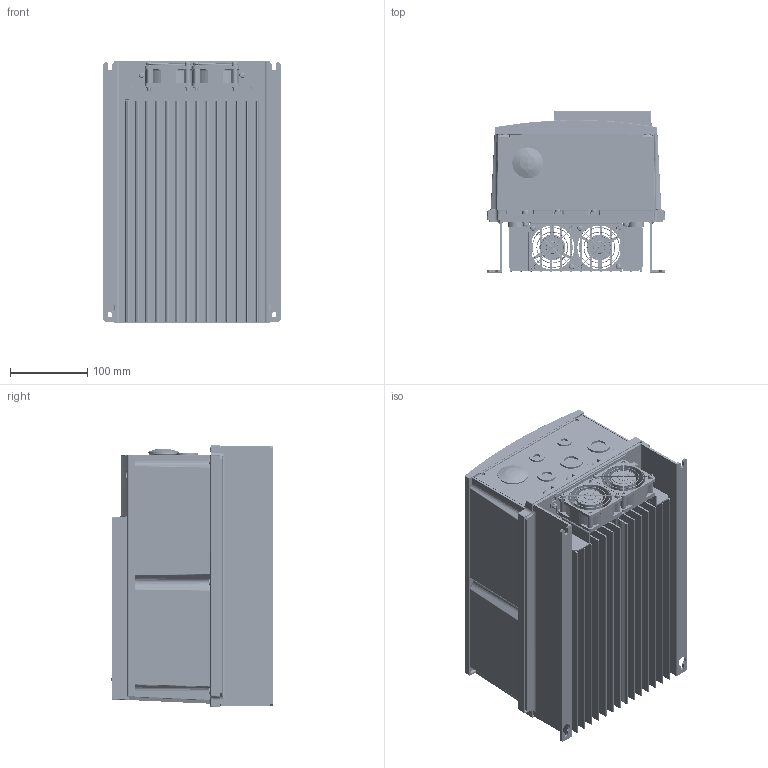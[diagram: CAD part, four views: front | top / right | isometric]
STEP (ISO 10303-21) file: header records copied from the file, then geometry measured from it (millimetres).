
FILE_DESCRIPTION(('STEP AP242'),'1');
FILE_NAME('atv212wu40n4c.stp','2021-03-23T14:28:31',('TraceParts'),('TraceParts S.A.'),'Spatial InterOp 3D',' ',' ');
FILE_SCHEMA(('AP242_MANAGED_MODEL_BASED_3D_ENGINEERING_MIM_LF {1 0 10303 442 1 1 4}'));
Length unit declared in the file: millimetre
Products named in the file (1): atv212wu40n4c_1
Bounding box: 230 x 208.8 x 339.98 mm (x, y, z)
Volume: 2449224.6 mm3; surface area: 1521579.2 mm2
Topology: 59 solids, 59 shells, 7084 faces, 18512 edges, 11814 vertices
Faces by surface type: plane 3464, cylinder 1926, cone 575, torus 531, bspline 393, sphere 172, extrusion 23
Entity records: 240065 total; most frequent: CARTESIAN_POINT 66781, ORIENTED_EDGE 36974, DIRECTION 35348, EDGE_CURVE 18487, AXIS2_PLACEMENT_3D 12389, VERTEX_POINT 11814, VECTOR 10570, LINE 10547
